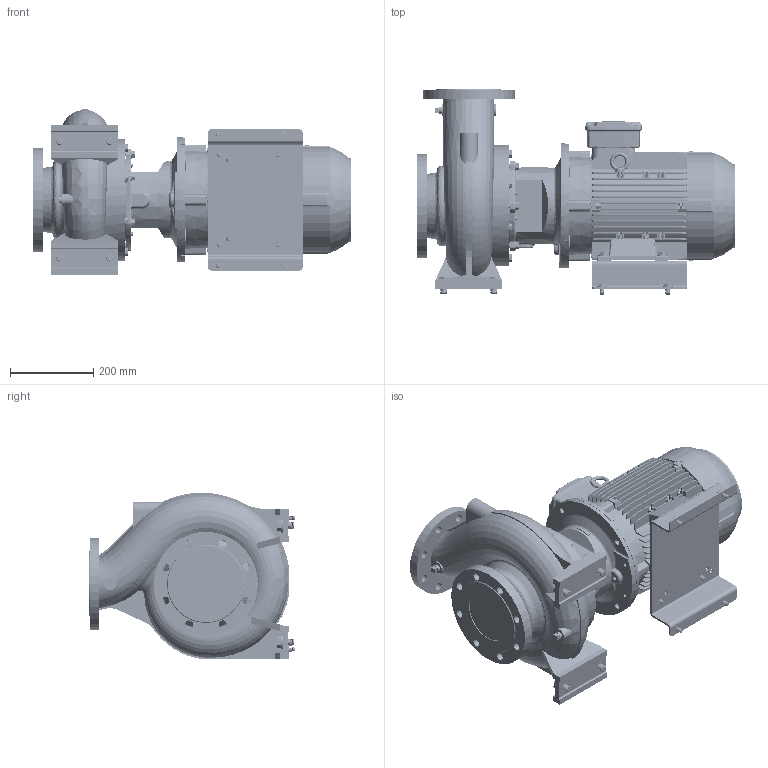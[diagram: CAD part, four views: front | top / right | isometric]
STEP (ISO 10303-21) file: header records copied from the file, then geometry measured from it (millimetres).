
FILE_DESCRIPTION (( 'STEP AP214' ), '1' );
FILE_NAME ('GSD4 100-200_5.5_(132S)_W21.STEP', '2026-07-01T05:41:20', ( '' ), ( '' ), 'SwSTEP 2.0', 'SolidWorks 2024', '' );
FILE_SCHEMA (( 'AUTOMOTIVE_DESIGN' ));
Length unit declared in the file: millimetre
Products named in the file (12): Parametric bolt and washer_SFT-A249B; 132S ALIE3_W21T_B35; Parametric bolt_SFT-A351B; Parametric bolt and washer_SFT-A351B; Parametric bolt_SFT-A253B; Parametric Flat Washer_M16; 100-200-132S_ﾃﾞﾌｫﾙﾄ; 140_178 x 68 BP - 271472191; GSD4 100-200_5.5_(132S)_W21; Parametric Flat Washer_M10; Parametric bolt_SFT-A249B; Parametric bolt and washer_SFT-A253B
Assembly tree (21 placements, depth 3):
  GSD4 100-200_5.5_(132S)_W21
    100-200-132S_ﾃﾞﾌｫﾙﾄ
    140_178 x 68 BP - 271472191
    Parametric bolt and washer_SFT-A351B  x4
      Parametric bolt_SFT-A351B
      Parametric Flat Washer_M16
    Parametric bolt and washer_SFT-A249B  x4
      Parametric bolt_SFT-A249B
      Parametric Flat Washer_M10
    Parametric bolt and washer_SFT-A253B  x4
      Parametric bolt_SFT-A253B
      Parametric Flat Washer_M10
    132S ALIE3_W21T_B35
Bounding box: 764.8 x 493 x 399.79 mm (x, y, z)
Volume: 40567804.9 mm3; surface area: 2366838.3 mm2
Topology: 31 solids, 31 shells, 4892 faces, 12642 edges, 8154 vertices
Faces by surface type: plane 2901, cylinder 1135, bspline 306, torus 269, cone 249, sphere 32
Entity records: 185677 total; most frequent: CARTESIAN_POINT 80033, ORIENTED_EDGE 22726, DIRECTION 20466, EDGE_CURVE 11363, LINE 7590, VECTOR 7590, VERTEX_POINT 7335, AXIS2_PLACEMENT_3D 6438
